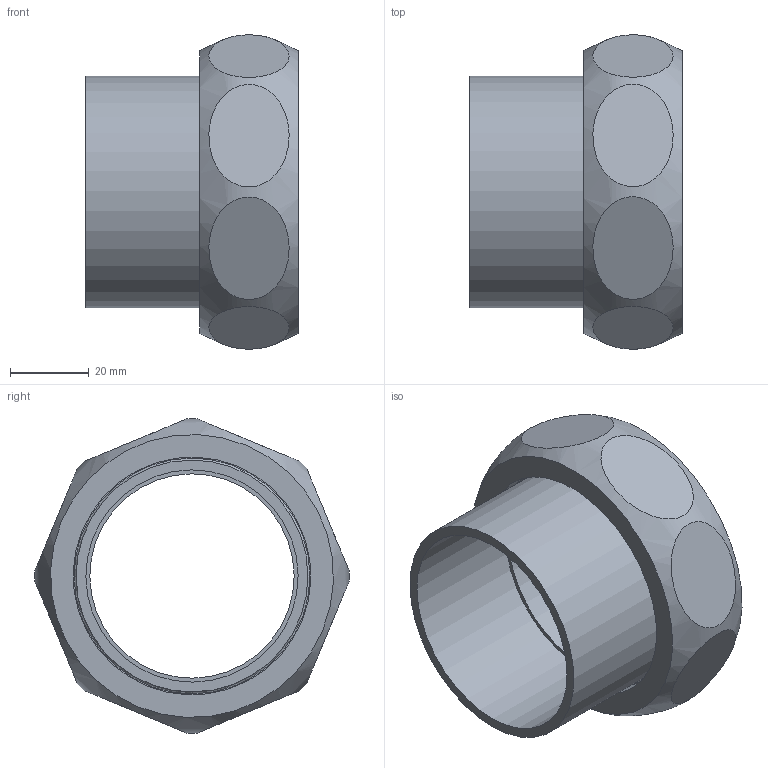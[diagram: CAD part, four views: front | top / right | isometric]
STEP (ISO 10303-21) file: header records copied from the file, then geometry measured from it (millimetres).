
FILE_DESCRIPTION((''),'2;1');
FILE_NAME('\\Lg50001\groups\SANHA Legnica\Engineering\Public\RYSUNKI\SANHA POLSKA\4359g\step\14359g_54-238(1).stp','2011-09-27T15:25:30',('pajchrowski'),(''),'Autodesk Inventor 2009','Autodesk Inventor 2009','');
FILE_SCHEMA(('AUTOMOTIVE_DESIGN { 1 0 10303 214 1 1 1 1 }'));
Length unit declared in the file: millimetre
Products named in the file (4): 14359g_54-238(1); 14374_238(0); 1DCU238; 14372_54-238(1)
Assembly tree (3 placements, depth 2):
  14359g_54-238(1)
    14374_238(0)
    1DCU238
    14372_54-238(1)
Bounding box: 54 x 79.99 x 79.99 mm (x, y, z)
Volume: 51431.9 mm3; surface area: 32265.6 mm2
Topology: 3 solids, 3 shells, 28 faces, 41 edges, 29 vertices
Faces by surface type: plane 17, cylinder 8, bspline 2, cone 1
Full cylindrical faces by diameter (mm): 52 x1, 54 x1, 55 x1, 59 x1, 60.5 x1, 65 x1, 65.5 x1, 66.44 x1
Entity records: 2258 total; most frequent: CARTESIAN_POINT 1679, DIRECTION 106, ORIENTED_EDGE 56, EDGE_LOOP 56, AXIS2_PLACEMENT_3D 53, VERTEX_POINT 28, EDGE_CURVE 28, FACE_OUTER_BOUND 28
